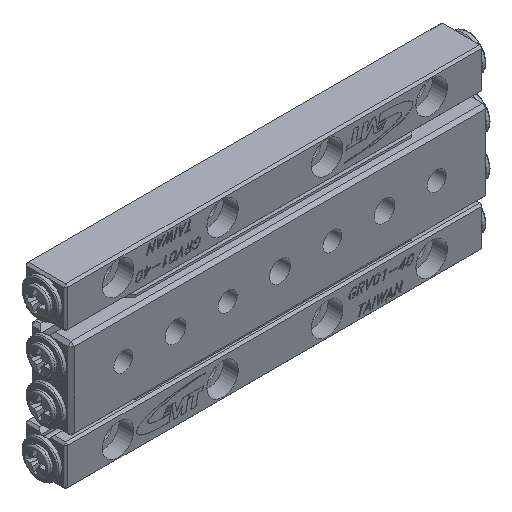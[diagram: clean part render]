
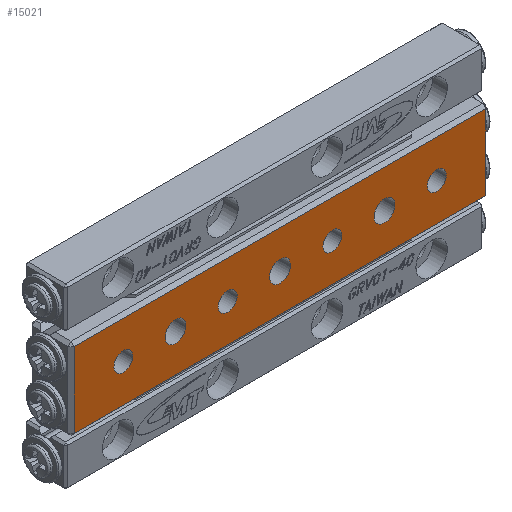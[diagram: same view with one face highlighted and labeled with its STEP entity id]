
A CAD part, isometric view. The second image highlights one B-rep face of the part: STEP entity #15021.
In plain terms, the highlighted planar face has unit normal (0, -1, 0).
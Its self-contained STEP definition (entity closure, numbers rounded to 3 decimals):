
#33 = CARTESIAN_POINT ( 'NONE',  ( -15., 0., 0. ) ) ;
#233 = VERTEX_POINT ( 'NONE', #3886 ) ;
#297 = AXIS2_PLACEMENT_3D ( 'NONE', #30111, #27665, #18105 ) ;
#443 = CARTESIAN_POINT ( 'NONE',  ( 15., 0., 0.9 ) ) ;
#721 = EDGE_LOOP ( 'NONE', ( #38031 ) ) ;
#1464 = DIRECTION ( 'NONE',  ( 0., 1., 0. ) ) ;
#3067 = EDGE_LOOP ( 'NONE', ( #14847, #8697, #25626, #38686 ) ) ;
#3886 = CARTESIAN_POINT ( 'NONE',  ( 10., 0., 1. ) ) ;
#3921 = CIRCLE ( 'NONE', #7784, 0.9 ) ;
#4654 = CARTESIAN_POINT ( 'NONE',  ( -19.7, 0., -3.6 ) ) ;
#5621 = ORIENTED_EDGE ( 'NONE', *, *, #11364, .T. ) ;
#5700 = DIRECTION ( 'NONE',  ( 0., 1., 0. ) ) ;
#5928 = DIRECTION ( 'NONE',  ( -1., 0., 0. ) ) ;
#6341 = EDGE_CURVE ( 'NONE', #22158, #22158, #26889, .T. ) ;
#6349 = CARTESIAN_POINT ( 'NONE',  ( -19.7, 0., 3.6 ) ) ;
#6639 = CIRCLE ( 'NONE', #31332, 0.9 ) ;
#6860 = DIRECTION ( 'NONE',  ( 0., 0., 1. ) ) ;
#7059 = CARTESIAN_POINT ( 'NONE',  ( -19.7, 0., 3.9 ) ) ;
#7784 = AXIS2_PLACEMENT_3D ( 'NONE', #12314, #18386, #34063 ) ;
#7921 = ORIENTED_EDGE ( 'NONE', *, *, #6341, .T. ) ;
#8032 = FACE_BOUND ( 'NONE', #25269, .T. ) ;
#8449 = CARTESIAN_POINT ( 'NONE',  ( -20., 0., 3.9 ) ) ;
#8697 = ORIENTED_EDGE ( 'NONE', *, *, #25224, .T. ) ;
#9149 = CARTESIAN_POINT ( 'NONE',  ( 19.7, 0., -3.6 ) ) ;
#9460 = LINE ( 'NONE', #31835, #26173 ) ;
#9608 = DIRECTION ( 'NONE',  ( 0., 0., 1. ) ) ;
#9824 = EDGE_CURVE ( 'NONE', #233, #233, #29591, .T. ) ;
#10093 = DIRECTION ( 'NONE',  ( 0., 0., -1. ) ) ;
#10359 = CARTESIAN_POINT ( 'NONE',  ( -15., 0., 0.9 ) ) ;
#11169 = CARTESIAN_POINT ( 'NONE',  ( 0., 0., 0. ) ) ;
#11364 = EDGE_CURVE ( 'NONE', #20497, #20497, #6639, .T. ) ;
#11485 = FACE_BOUND ( 'NONE', #20674, .T. ) ;
#12069 = AXIS2_PLACEMENT_3D ( 'NONE', #11169, #1464, #23588 ) ;
#12314 = CARTESIAN_POINT ( 'NONE',  ( -5., 0., 0. ) ) ;
#12668 = VERTEX_POINT ( 'NONE', #23455 ) ;
#12764 = VECTOR ( 'NONE', #10093, 1000. ) ;
#13175 = VERTEX_POINT ( 'NONE', #9149 ) ;
#13617 = CARTESIAN_POINT ( 'NONE',  ( 5., 0., 0.9 ) ) ;
#14160 = DIRECTION ( 'NONE',  ( 0., 1., 0. ) ) ;
#14344 = CARTESIAN_POINT ( 'NONE',  ( 5., 0., 0. ) ) ;
#14711 = CIRCLE ( 'NONE', #39482, 1. ) ;
#14762 = FACE_BOUND ( 'NONE', #38691, .T. ) ;
#14847 = ORIENTED_EDGE ( 'NONE', *, *, #21557, .T. ) ;
#15021 = ADVANCED_FACE ( 'NONE', ( #23699, #11485, #23909, #36105, #20645, #8032, #14762, #36314 ), #29601, .F. ) ;
#15172 = EDGE_LOOP ( 'NONE', ( #33293 ) ) ;
#15314 = CIRCLE ( 'NONE', #37378, 0.9 ) ;
#15567 = EDGE_CURVE ( 'NONE', #29670, #29670, #14711, .T. ) ;
#16073 = VECTOR ( 'NONE', #18791, 1000. ) ;
#17927 = CIRCLE ( 'NONE', #12069, 1. ) ;
#18105 = DIRECTION ( 'NONE',  ( 0., 0., 1. ) ) ;
#18386 = DIRECTION ( 'NONE',  ( 0., 1., 0. ) ) ;
#18582 = LINE ( 'NONE', #31820, #16073 ) ;
#18791 = DIRECTION ( 'NONE',  ( 0., 0., 1. ) ) ;
#20110 = CARTESIAN_POINT ( 'NONE',  ( -10., 0., 1. ) ) ;
#20123 = VERTEX_POINT ( 'NONE', #6349 ) ;
#20227 = DIRECTION ( 'NONE',  ( 0., 0., 1. ) ) ;
#20497 = VERTEX_POINT ( 'NONE', #13617 ) ;
#20549 = VECTOR ( 'NONE', #5928, 1000. ) ;
#20645 = FACE_BOUND ( 'NONE', #30537, .T. ) ;
#20674 = EDGE_LOOP ( 'NONE', ( #36336 ) ) ;
#20709 = CARTESIAN_POINT ( 'NONE',  ( 0., 0., 1. ) ) ;
#20851 = DIRECTION ( 'NONE',  ( 0., 0., 1. ) ) ;
#21382 = LINE ( 'NONE', #34400, #20549 ) ;
#21557 = EDGE_CURVE ( 'NONE', #20123, #30356, #22502, .T. ) ;
#22158 = VERTEX_POINT ( 'NONE', #443 ) ;
#22502 = LINE ( 'NONE', #7059, #12764 ) ;
#22719 = EDGE_CURVE ( 'NONE', #38235, #38235, #15314, .T. ) ;
#23455 = CARTESIAN_POINT ( 'NONE',  ( 19.7, 0., 3.6 ) ) ;
#23588 = DIRECTION ( 'NONE',  ( 0., 0., 1. ) ) ;
#23699 = FACE_OUTER_BOUND ( 'NONE', #3067, .T. ) ;
#23883 = AXIS2_PLACEMENT_3D ( 'NONE', #8449, #14160, #20851 ) ;
#23909 = FACE_BOUND ( 'NONE', #24617, .T. ) ;
#23970 = VERTEX_POINT ( 'NONE', #20709 ) ;
#24617 = EDGE_LOOP ( 'NONE', ( #38817 ) ) ;
#25224 = EDGE_CURVE ( 'NONE', #30356, #13175, #9460, .T. ) ;
#25269 = EDGE_LOOP ( 'NONE', ( #5621 ) ) ;
#25456 = DIRECTION ( 'NONE',  ( 0., 1., 0. ) ) ;
#25626 = ORIENTED_EDGE ( 'NONE', *, *, #34024, .T. ) ;
#25978 = CARTESIAN_POINT ( 'NONE',  ( 10., 0., 0. ) ) ;
#26173 = VECTOR ( 'NONE', #34672, 1000. ) ;
#26889 = CIRCLE ( 'NONE', #297, 0.9 ) ;
#27665 = DIRECTION ( 'NONE',  ( 0., 1., 0. ) ) ;
#28516 = CARTESIAN_POINT ( 'NONE',  ( -10., 0., 0. ) ) ;
#28864 = ORIENTED_EDGE ( 'NONE', *, *, #39500, .T. ) ;
#29112 = EDGE_CURVE ( 'NONE', #23970, #23970, #17927, .T. ) ;
#29591 = CIRCLE ( 'NONE', #35458, 1. ) ;
#29601 = PLANE ( 'NONE',  #23883 ) ;
#29670 = VERTEX_POINT ( 'NONE', #20110 ) ;
#30111 = CARTESIAN_POINT ( 'NONE',  ( 15., 0., 0. ) ) ;
#30356 = VERTEX_POINT ( 'NONE', #4654 ) ;
#30537 = EDGE_LOOP ( 'NONE', ( #7921 ) ) ;
#31332 = AXIS2_PLACEMENT_3D ( 'NONE', #14344, #32047, #20227 ) ;
#31820 = CARTESIAN_POINT ( 'NONE',  ( 19.7, 0., 3.9 ) ) ;
#31835 = CARTESIAN_POINT ( 'NONE',  ( -20., 0., -3.6 ) ) ;
#32047 = DIRECTION ( 'NONE',  ( 0., 1., 0. ) ) ;
#33240 = EDGE_CURVE ( 'NONE', #12668, #20123, #21382, .T. ) ;
#33293 = ORIENTED_EDGE ( 'NONE', *, *, #22719, .T. ) ;
#34024 = EDGE_CURVE ( 'NONE', #13175, #12668, #18582, .T. ) ;
#34063 = DIRECTION ( 'NONE',  ( 0., 0., 1. ) ) ;
#34400 = CARTESIAN_POINT ( 'NONE',  ( -20., 0., 3.6 ) ) ;
#34672 = DIRECTION ( 'NONE',  ( 1., 0., 0. ) ) ;
#35458 = AXIS2_PLACEMENT_3D ( 'NONE', #25978, #38185, #6860 ) ;
#36105 = FACE_BOUND ( 'NONE', #721, .T. ) ;
#36314 = FACE_BOUND ( 'NONE', #15172, .T. ) ;
#36336 = ORIENTED_EDGE ( 'NONE', *, *, #9824, .T. ) ;
#36566 = CARTESIAN_POINT ( 'NONE',  ( -5., 0., 0.9 ) ) ;
#36779 = VERTEX_POINT ( 'NONE', #36566 ) ;
#37206 = DIRECTION ( 'NONE',  ( 0., 0., 1. ) ) ;
#37378 = AXIS2_PLACEMENT_3D ( 'NONE', #33, #5700, #37206 ) ;
#38031 = ORIENTED_EDGE ( 'NONE', *, *, #15567, .T. ) ;
#38185 = DIRECTION ( 'NONE',  ( 0., 1., 0. ) ) ;
#38235 = VERTEX_POINT ( 'NONE', #10359 ) ;
#38686 = ORIENTED_EDGE ( 'NONE', *, *, #33240, .T. ) ;
#38691 = EDGE_LOOP ( 'NONE', ( #28864 ) ) ;
#38817 = ORIENTED_EDGE ( 'NONE', *, *, #29112, .T. ) ;
#39482 = AXIS2_PLACEMENT_3D ( 'NONE', #28516, #25456, #9608 ) ;
#39500 = EDGE_CURVE ( 'NONE', #36779, #36779, #3921, .T. ) ;
